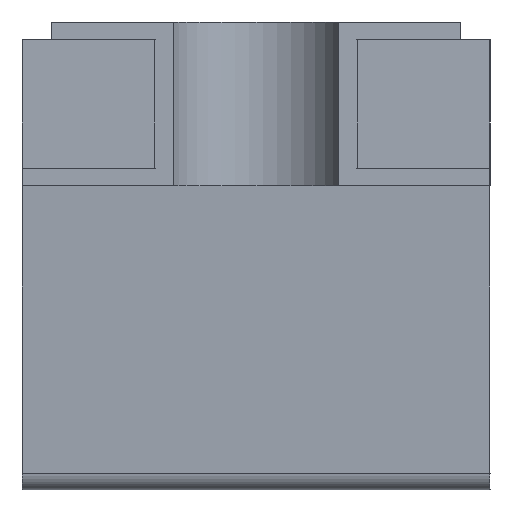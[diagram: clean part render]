
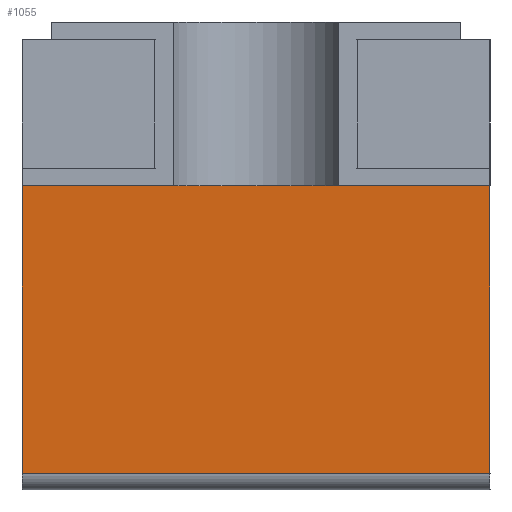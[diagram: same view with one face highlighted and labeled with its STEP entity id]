
A CAD part, left-side view. The second image highlights one B-rep face of the part: STEP entity #1055.
In plain terms, the highlighted planar face has unit normal (-0.999, 0, -0.052).
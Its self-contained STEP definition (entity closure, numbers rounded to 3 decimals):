
#61=PLANE('',#1151);
#115=FACE_OUTER_BOUND('',#169,.T.);
#169=EDGE_LOOP('',(#929,#930,#931,#932));
#297=LINE('',#1671,#419);
#305=LINE('',#1691,#427);
#306=LINE('',#1695,#428);
#307=LINE('',#1698,#429);
#419=VECTOR('',#1383,10.);
#427=VECTOR('',#1401,10.);
#428=VECTOR('',#1406,10.);
#429=VECTOR('',#1411,10.);
#513=VERTEX_POINT('',#1668);
#514=VERTEX_POINT('',#1670);
#521=VERTEX_POINT('',#1690);
#522=VERTEX_POINT('',#1694);
#645=EDGE_CURVE('',#513,#514,#297,.T.);
#655=EDGE_CURVE('',#521,#514,#305,.T.);
#657=EDGE_CURVE('',#521,#522,#306,.T.);
#659=EDGE_CURVE('',#513,#522,#307,.T.);
#929=ORIENTED_EDGE('',*,*,#657,.F.);
#930=ORIENTED_EDGE('',*,*,#655,.T.);
#931=ORIENTED_EDGE('',*,*,#645,.F.);
#932=ORIENTED_EDGE('',*,*,#659,.T.);
#1055=ADVANCED_FACE('',(#115),#61,.T.);
#1151=AXIS2_PLACEMENT_3D('',#1700,#1413,#1414);
#1383=DIRECTION('',(0.,-1.,0.));
#1401=DIRECTION('',(-0.052,0.,0.999));
#1406=DIRECTION('',(0.,1.,0.));
#1411=DIRECTION('',(0.052,0.,-0.999));
#1413=DIRECTION('center_axis',(-0.999,0.,
-0.052));
#1414=DIRECTION('ref_axis',(0.052,0.,-0.999));
#1668=CARTESIAN_POINT('',(-0.55,0.4,-0.03));
#1670=CARTESIAN_POINT('',(-0.55,-0.4,-0.03));
#1671=CARTESIAN_POINT('',(-0.55,0.4,-0.03));
#1690=CARTESIAN_POINT('',(-0.524,-0.4,-0.522));
#1691=CARTESIAN_POINT('',(-0.543,-0.4,-0.16));
#1694=CARTESIAN_POINT('',(-0.524,0.4,-0.522));
#1695=CARTESIAN_POINT('',(-0.524,0.1,-0.522));
#1698=CARTESIAN_POINT('',(-0.542,0.4,-0.189));
#1700=CARTESIAN_POINT('Origin',(-0.536,0.2,-0.29));
